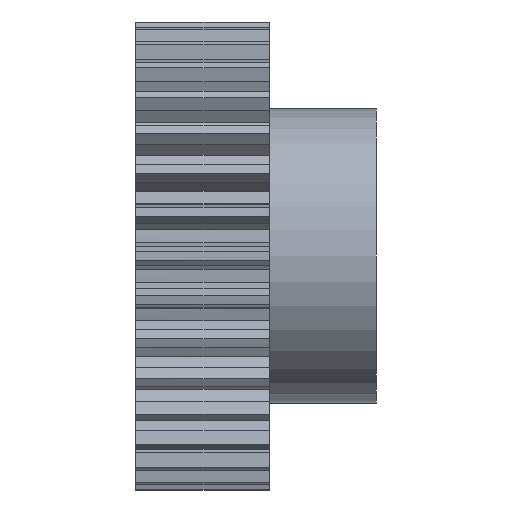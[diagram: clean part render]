
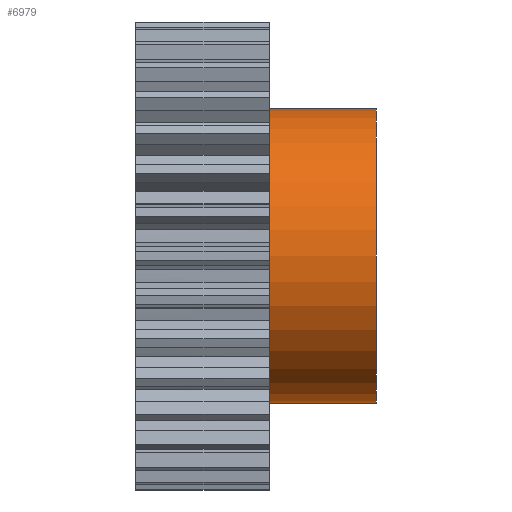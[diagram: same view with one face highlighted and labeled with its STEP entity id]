
A CAD part, front view. The second image highlights one B-rep face of the part: STEP entity #6979.
In plain terms, the highlighted cylindrical face has radius 27.5 mm (diameter 55 mm), a partial arc.
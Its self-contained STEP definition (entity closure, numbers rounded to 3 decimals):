
#3363 = CIRCLE ( 'NONE', #3394, 27.5 ) ;
#3393 = DIRECTION ( 'NONE',  ( 0., 0., 1. ) ) ;
#3394 = AXIS2_PLACEMENT_3D ( 'NONE', #3399, #3400, #3393 ) ;
#3399 = CARTESIAN_POINT ( 'NONE',  ( 12.5, 0., 0. ) ) ;
#3400 = DIRECTION ( 'NONE',  ( 1., 0., 0. ) ) ;
#3810 = DIRECTION ( 'NONE',  ( 0., 0., 1. ) ) ;
#3811 = DIRECTION ( 'NONE',  ( -1., 0., 0. ) ) ;
#3812 = AXIS2_PLACEMENT_3D ( 'NONE', #3824, #3811, #3810 ) ;
#3817 = CIRCLE ( 'NONE', #3812, 27.5 ) ;
#3824 = CARTESIAN_POINT ( 'NONE',  ( 32.5, 0., 0. ) ) ;
#4017 = EDGE_CURVE ( 'NONE', #6643, #6651, #3363, .T. ) ;
#5165 = CARTESIAN_POINT ( 'NONE',  ( 12.5, 0., 27.5 ) ) ;
#5188 = CARTESIAN_POINT ( 'NONE',  ( 12.5, 0., -27.5 ) ) ;
#5189 = LINE ( 'NONE', #5188, #5239 ) ;
#5235 = CARTESIAN_POINT ( 'NONE',  ( 32.5, 0., 27.5 ) ) ;
#5237 = CARTESIAN_POINT ( 'NONE',  ( 32.5, 0., -27.5 ) ) ;
#5238 = DIRECTION ( 'NONE',  ( -1., 0., 0. ) ) ;
#5239 = VECTOR ( 'NONE', #5238, 1000. ) ;
#5241 = CARTESIAN_POINT ( 'NONE',  ( 12.5, 0., -27.5 ) ) ;
#5290 = DIRECTION ( 'NONE',  ( -1., 0., 0. ) ) ;
#5291 = VECTOR ( 'NONE', #5290, 1000. ) ;
#5299 = CARTESIAN_POINT ( 'NONE',  ( 12.5, 0., 27.5 ) ) ;
#5300 = LINE ( 'NONE', #5299, #5291 ) ;
#5693 = CYLINDRICAL_SURFACE ( 'NONE', #5707, 27.5 ) ;
#5707 = AXIS2_PLACEMENT_3D ( 'NONE', #5734, #5733, #5725 ) ;
#5725 = DIRECTION ( 'NONE',  ( 0., 0., 1. ) ) ;
#5733 = DIRECTION ( 'NONE',  ( -1., 0., 0. ) ) ;
#5734 = CARTESIAN_POINT ( 'NONE',  ( 12.5, 0., 0. ) ) ;
#5740 = FACE_OUTER_BOUND ( 'NONE', #6928, .T. ) ;
#5855 = EDGE_CURVE ( 'NONE', #6652, #6656, #3817, .T. ) ;
#6643 = VERTEX_POINT ( 'NONE', #5165 ) ;
#6649 = EDGE_CURVE ( 'NONE', #6652, #6651, #5189, .T. ) ;
#6651 = VERTEX_POINT ( 'NONE', #5241 ) ;
#6652 = VERTEX_POINT ( 'NONE', #5237 ) ;
#6656 = VERTEX_POINT ( 'NONE', #5235 ) ;
#6684 = EDGE_CURVE ( 'NONE', #6656, #6643, #5300, .T. ) ;
#6923 = ORIENTED_EDGE ( 'NONE', *, *, #4017, .T. ) ;
#6928 = EDGE_LOOP ( 'NONE', ( #6982, #6985, #6977, #6923 ) ) ;
#6977 = ORIENTED_EDGE ( 'NONE', *, *, #6684, .T. ) ;
#6979 = ADVANCED_FACE ( 'NONE', ( #5740 ), #5693, .T. ) ;
#6982 = ORIENTED_EDGE ( 'NONE', *, *, #6649, .F. ) ;
#6985 = ORIENTED_EDGE ( 'NONE', *, *, #5855, .T. ) ;
